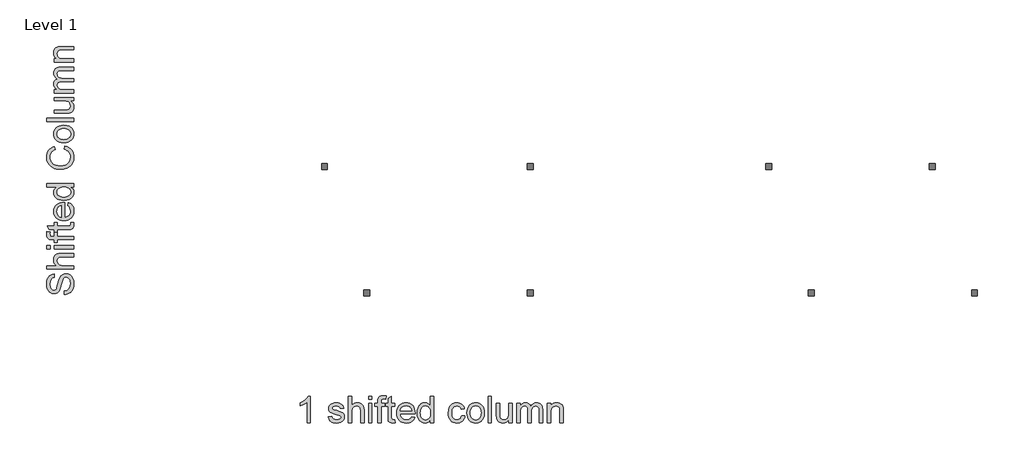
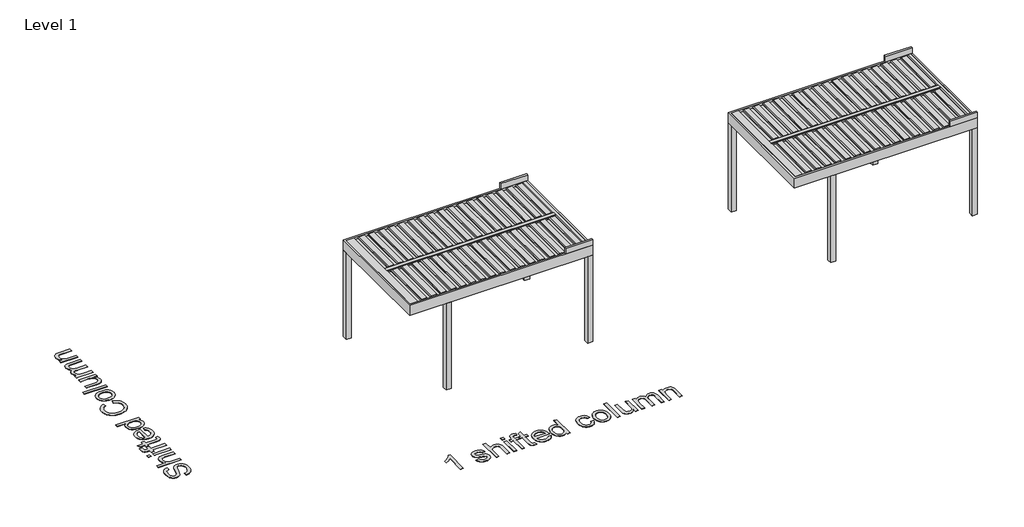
# One storey, part 31 of 47: 4 proxies.
"""IFC4 building model written with IfcOpenShell, lengths in millimetres."""

from ifc_helpers import new_model, si_unit, origin, origin_with_axes, place, context, project, spatial, polyline, outline, extrude, transform, mapped, element, save
from components import generic_models_242e71fc, generic_models_93a3973e

model = new_model("IFC4")

# Units and contexts
model_context = context("Model", 3, world=origin())
ifc_project = project(units=[si_unit("LENGTHUNIT", "METRE", prefix="MILLI")], contexts=[model_context])

# Site, building, storey
site = spatial("IfcSite", under=ifc_project)
building = spatial("IfcBuilding", under=site)
storey = spatial("IfcBuildingStorey", under=building, Name="Level 1", Elevation=0.0)

# Proxies
placement = place(None, origin())
generic_models_shape = generic_models_242e71fc(model_context)
element("IfcBuildingElementProxy", 1, Name="Renson_Algarve_Single Unit With Intermediate Beam : Algarve - Single Unit With Intermediate Beam", ObjectType="Renson_Algarve_Single Unit With Intermediate Beam : Algarve - Single Unit With Intermediate Beam", at=placement, inside=storey, context=model_context, shape_type="MappedRepresentation", body=[
    mapped(generic_models_shape, transform((76532.7944478, 54900.3727543, 0.0), x_axis=(1.0, 0.0, 0.0), y_axis=(0.0, 1.0, 0.0), z_axis=(0.0, 0.0, 1.0))),
])
generic_models_2_shape = generic_models_93a3973e(model_context)
element("IfcBuildingElementProxy", 2, Name="Renson_Algarve_Single Unit With Intermediate Beam : Algarve - Single Unit With Intermediate Beam", ObjectType="Renson_Algarve_Single Unit With Intermediate Beam : Algarve - Single Unit With Intermediate Beam", at=placement, inside=storey, context=model_context, shape_type="MappedRepresentation", body=[
    mapped(generic_models_2_shape, transform((84932.7944478, 54900.3727543, 0.0), x_axis=(1.0, 0.0, 0.0), y_axis=(0.0, 1.0, 0.0), z_axis=(0.0, 0.0, 1.0))),
])
element("IfcBuildingElementProxy", 3, Name="500mm Arial", ObjectType="500mm Arial", at=placement, inside=storey, context=model_context, shape_type="SweptSolid", body=[
    extrude(outline(polyline([(69669.9627665, 53051.4354175), (69669.9627665, 53114.2206113), (69704.8042571, 53121.4249671), (69732.809274, 53134.454121), (69755.0354779, 53154.7796013), (69772.5405295, 53183.8729357), (69783.8988861, 53219.4348619), (69787.685005, 53259.1661174), (69784.8185911, 53294.1455638), (69776.2193494, 53324.7717399), (69762.6077156, 53349.5884461), (69744.7041252, 53367.139483), (69724.1487187, 53377.5781346), (69702.5816367, 53381.0576851), (69681.5663778, 53378.4518544), (69663.4022043, 53370.634362), (69647.9051752, 53354.7541225), (69634.8913496, 53327.9600505), (69610.9177063, 53236.5413747), (69595.0527952, 53176.5306242), (69579.954305, 53138.132941), (69558.8317471, 53106.8782998), (69533.2332916, 53084.728738), (69503.7107615, 53071.5309715), (69470.8159798, 53067.1317159), (69434.0431087, 53072.5733038), (69399.753441, 53088.8980673), (69384.2257552, 53101.034341), (69370.6907634, 53115.6768109), (69349.5988624, 53152.4803388), (69336.7689778, 53196.6568351), (69332.4923496, 53245.5544836), (69336.9682472, 53298.5294909), (69350.39594, 53344.8826223), (69372.4995166, 53382.9584088), (69386.7012944, 53398.2714968), (69403.0030653, 53411.1013814), (69440.0058627, 53428.9130014), (69481.607185, 53435.9947298), (69481.607185, 53373.2095359), (69461.5729447, 53369.0095498), (69444.1445351, 53361.6825667), (69429.3219564, 53351.2285867), (69417.1052085, 53337.6476097), (69407.555605, 53320.6867169), (69400.7344597, 53300.0929894), (69395.2775434, 53248.0070302), (69400.673146, 53194.6947978), (69407.4176493, 53174.3156681), (69416.8599538, 53158.1211961), (69428.2106462, 53145.7818208), (69440.680313, 53136.9679813), (69454.2689542, 53131.6796777), (69468.9765698, 53129.9169098), (69493.1034973, 53134.9139735), (69512.5092726, 53149.9051648), (69521.139171, 53163.6700828), (69529.86104, 53185.3444637), (69547.5806894, 53252.4216142), (69564.4112907, 53321.6447429), (69579.0959137, 53363.5219767), (69601.8739406, 53399.3138292), (69629.9862564, 53424.2838196), (69663.1262928, 53438.9531141), (69700.9874814, 53443.842879), (69739.691733, 53438.2173501), (69776.0967221, 53421.3407636), (69807.4280054, 53393.9028981), (69830.9111394, 53356.5935325), (69845.5804339, 53311.7272575), (69850.4701988, 53261.618664), (69845.1972235, 53200.1057288), (69838.6060045, 53173.430452), (69829.3782977, 53149.4759692), (69817.498775, 53128.0966603), (69802.9521078, 53109.1469055), (69785.7382961, 53092.6267046), (69765.8573399, 53078.5360578), (69743.9530328, 53067.1853654), (69720.6691682, 53058.8850279), (69696.0057461, 53053.6350452), (69669.9627665, 53051.4354175)])), origin_with_axes(), (0.0, 0.0, 1.0), 5.0),
    extrude(outline(polyline([(69842.6220496, 53530.1725205), (69340.3404988, 53530.1725205), (69340.3404988, 53592.9577144), (69525.0172604, 53592.9577144), (69499.1582218, 53616.0193169), (69480.68748, 53641.9166766), (69469.6050349, 53670.6497932), (69465.9108865, 53702.2186669), (69469.94226, 53740.1411693), (69482.0363806, 53772.7293827), (69501.2428865, 53798.3891518), (69526.6114157, 53815.5263215), (69561.4682348, 53825.1832238), (69609.13961, 53828.4021913), (69842.6220496, 53828.4021913), (69842.6220496, 53765.6169974), (69615.6388585, 53765.6169974), (69576.3367987, 53760.6199337), (69561.330279, 53754.373604), (69549.4200994, 53745.6287424), (69540.3533411, 53734.5922825), (69533.8770851, 53721.471158), (69528.6960804, 53688.9749151), (69532.1909593, 53662.4414262), (69542.6755962, 53637.5327495), (69559.1383155, 53616.9007009), (69580.5674417, 53603.1970966), (69609.0476395, 53595.5175599), (69646.6635735, 53592.9577144), (69842.6220496, 53592.9577144), (69842.6220496, 53530.1725205)])), origin_with_axes(), (0.0, 0.0, 1.0), 5.0),
    extrude(outline(polyline([(69842.6220496, 53914.7318328), (69473.7590357, 53914.7318328), (69473.7590357, 53977.5170267), (69842.6220496, 53977.5170267), (69842.6220496, 53914.7318328)])), origin_with_axes(), (0.0, 0.0, 1.0), 5.0),
    extrude(outline(polyline([(69403.1256927, 53914.7318328), (69340.3404988, 53914.7318328), (69340.3404988, 53977.5170267), (69403.1256927, 53977.5170267), (69403.1256927, 53914.7318328)])), origin_with_axes(), (0.0, 0.0, 1.0), 5.0),
    extrude(outline(polyline([(69842.6220496, 54087.3911159), (69536.5442296, 54087.3911159), (69536.5442296, 54032.4540713), (69473.7590357, 54032.4540713), (69473.7590357, 54087.3911159), (69436.6029542, 54087.3911159), (69405.8541508, 54089.0465849), (69384.2410836, 54094.0129918), (69363.3637804, 54106.643607), (69346.8397474, 54126.1413527), (69336.079199, 54153.425934), (69332.4923496, 54189.4170559), (69339.3594802, 54246.6840198), (69398.2205994, 54237.4869699), (69395.2775434, 54201.3119071), (69397.8833742, 54177.4455626), (69405.7008666, 54161.7645926), (69420.6307443, 54153.0733804), (69444.5737308, 54150.1763097), (69473.7590357, 54150.1763097), (69473.7590357, 54220.8096528), (69536.5442296, 54220.8096528), (69536.5442296, 54150.1763097), (69842.6220496, 54150.1763097), (69842.6220496, 54087.3911159)])), origin_with_axes(), (0.0, 0.0, 1.0), 5.0),
    extrude(outline(polyline([(69790.2601789, 54409.1652343), (69844.4614595, 54417.0133836), (69850.4701988, 54370.0471155), (69847.864368, 54339.9114487), (69840.0468756, 54317.4399902), (69827.9987403, 54301.5597507), (69812.7009806, 54291.1977412), (69786.4280748, 54285.4955703), (69741.4545009, 54283.5948466), (69536.5442296, 54283.5948466), (69536.5442296, 54236.5059513), (69473.7590357, 54236.5059513), (69473.7590357, 54283.5948466), (69384.1184563, 54283.5948466), (69347.2076294, 54346.3800405), (69473.7590357, 54346.3800405), (69473.7590357, 54409.1652343), (69536.5442296, 54409.1652343), (69536.5442296, 54346.3800405), (69739.6150909, 54346.3800405), (69771.9887065, 54349.6909784), (69783.454362, 54360.42087), (69787.685005, 54381.8193394), (69790.2601789, 54409.1652343)])), origin_with_axes(), (0.0, 0.0, 1.0), 5.0),
    extrude(outline(polyline([(69732.7479603, 54730.2035888), (69740.5961096, 54791.7625093), (69765.2518675, 54782.3240369), (69786.9798978, 54769.5822907), (69805.7802006, 54753.5372708), (69821.6527758, 54734.1889771), (69834.2603984, 54711.7366791), (69843.2658431, 54686.3796461), (69848.6691099, 54658.1178783), (69850.4701988, 54626.9513755), (69847.3623624, 54587.994205), (69838.038853, 54553.2830059), (69822.4996709, 54522.8177782), (69800.7448158, 54496.5985219), (69773.3797603, 54475.514285), (69741.0099768, 54460.4541158), (69703.6354654, 54451.4180143), (69661.2562259, 54448.4059805), (69617.4399475, 54451.4486712), (69578.8200022, 54460.5767432), (69545.3963901, 54475.7901965), (69517.1691112, 54497.0890312), (69494.7436379, 54523.2393097), (69478.7254427, 54553.0070945), (69469.1145256, 54586.3923855), (69465.9108865, 54623.3951829), (69469.1068613, 54659.2061958), (69478.6947858, 54691.5913077), (69494.67466, 54720.5505185), (69517.0464838, 54746.0838283), (69545.2124491, 54766.9266425), (69578.5747475, 54781.814367), (69617.1333792, 54790.7470017), (69660.888344, 54793.7245466), (69677.8109157, 54793.3566646), (69677.8109157, 54511.1911743), (69702.8652124, 54514.8278411), (69724.8078406, 54522.0590216), (69743.6388002, 54532.8847157), (69759.3580913, 54547.3049235), (69771.751116, 54564.5225673), (69780.6032766, 54583.7405695), (69785.9145729, 54604.95893), (69787.685005, 54628.1776488), (69784.4047238, 54661.5935967), (69774.5638805, 54689.7365693), (69757.5493382, 54712.6065667), (69732.7479603, 54730.2035888)]), holes=[polyline([(69615.0257219, 54511.1911743), (69615.0257219, 54730.9393528), (69581.8550287, 54722.4474101), (69558.12664, 54705.8007498), (69545.2507701, 54688.6789086), (69536.0537203, 54669.1964913), (69530.5354903, 54647.3534978), (69528.6960804, 54623.1499282), (69534.5668639, 54580.8281703), (69541.9053432, 54562.4149101), (69552.1792144, 54545.8333955), (69564.9132964, 54531.9190255), (69579.6324083, 54521.5071986), (69596.3365501, 54514.5979149), (69615.0257219, 54511.1911743)])]), origin_with_axes(), (0.0, 0.0, 1.0), 5.0),
    extrude(outline(polyline([(69842.6220496, 55084.1060682), (69783.3930483, 55084.1060682), (69812.7393017, 55065.3210938), (69833.7009112, 55042.5660595), (69846.2778769, 55015.8409654), (69850.4701988, 54985.1458115), (69844.4001459, 54944.5561647), (69826.1899871, 54907.4000831), (69797.1119811, 54875.9461726), (69758.4383863, 54852.4630385), (69711.7327014, 54837.8397292), (69658.5584247, 54832.9652928), (69606.0432698, 54837.4565188), (69558.6171493, 54850.9301969), (69537.4869272, 54861.0316233), (69518.9778643, 54873.3709986), (69503.0899606, 54887.9483226), (69489.8232162, 54904.7635955), (69471.8889689, 54942.7320831), (69465.9108865, 54984.9005568), (69470.1875147, 55015.6187034), (69483.0173993, 55042.7806574), (69502.6837576, 55065.8039389), (69527.469807, 55084.1060682), (69340.3404988, 55084.1060682), (69340.3404988, 55146.891262), (69842.6220496, 55146.891262), (69842.6220496, 55084.1060682)]), holes=[polyline([(69658.31317, 54895.7504866), (69688.7592372, 54897.5209187), (69715.104953, 54902.832215), (69737.3503174, 54911.6843755), (69755.4953304, 54924.0774003), (69769.578313, 54938.8769864), (69779.6375863, 54954.948831), (69785.6731503, 54972.2929342), (69787.685005, 54990.909296), (69785.7651208, 55009.6137962), (69780.0054683, 55026.8544327), (69770.4060475, 55042.6312053), (69756.9668584, 55056.9441142), (69739.580602, 55068.827469), (69718.1399795, 55077.3155797), (69692.6449908, 55082.408446), (69663.0956359, 55084.1060682), (69630.6990277, 55082.3777892), (69602.9162729, 55077.1929523), (69579.7473714, 55068.5515575), (69561.1923233, 55056.4536049), (69546.975217, 55041.8264634), (69536.8201411, 55025.5975025), (69530.7270955, 55007.7667221), (69528.6960804, 54988.3341221), (69530.6466213, 54969.3498783), (69536.4982443, 54952.0057751), (69546.2509493, 54936.3018124), (69559.9047363, 54922.2379903), (69577.7585094, 54910.6497074), (69600.1111727, 54902.3723625), (69626.9627262, 54897.4059556), (69658.31317, 54895.7504866)])]), origin_with_axes(), (0.0, 0.0, 1.0), 5.0),
    extrude(outline(polyline([(69664.0766546, 55798.2876481), (69680.2634624, 55861.072842), (69719.3087712, 55848.6491604), (69753.4259942, 55832.1021348), (69782.6151312, 55811.4317652), (69806.8761824, 55786.6380516), (69825.9485646, 55758.2804811), (69839.5716947, 55726.9185411), (69847.7455728, 55692.5522313), (69850.4701988, 55655.181552), (69848.4085268, 55616.8949998), (69842.2235107, 55582.3562454), (69831.9151507, 55551.5652888), (69817.4834466, 55524.52213), (69799.1429963, 55500.855055), (69777.1083976, 55480.1923496), (69751.3796506, 55462.5340139), (69721.9567552, 55447.8800477), (69690.1119699, 55436.3722391), (69657.1175535, 55428.1523757), (69622.9735058, 55423.2204577), (69587.6798269, 55421.5764851), (69549.810974, 55423.4350556), (69514.440653, 55429.010767), (69481.5688639, 55438.3036195), (69451.1956067, 55451.313613), (69423.822887, 55467.7495076), (69399.9527105, 55487.3200633), (69379.5850771, 55510.0252802), (69362.7199869, 55535.8651582), (69349.4953956, 55563.9621456), (69340.0492589, 55593.4386905), (69334.3815769, 55624.2947928), (69332.4923496, 55656.5304526), (69334.937232, 55692.4411003), (69342.2718793, 55725.370371), (69354.4962914, 55755.3182647), (69371.6104684, 55782.2847813), (69393.162222, 55805.8253969), (69418.6993638, 55825.4955874), (69448.2218939, 55841.2953526), (69481.7298123, 55853.2246927), (69496.6903468, 55790.4394989), (69472.0001, 55780.5526703), (69450.9043668, 55768.6731475), (69433.4031473, 55754.8009306), (69419.4964415, 55738.9360196), (69408.9006736, 55720.9864439), (69401.3322679, 55700.8602331), (69396.7912246, 55678.5573871), (69395.2775434, 55654.077906), (69396.956005, 55625.9119408), (69401.9913898, 55600.1525369), (69410.3836979, 55576.7996944), (69422.1329291, 55555.8534133), (69436.7102531, 55537.5781088), (69453.5868397, 55522.238196), (69472.7626887, 55509.833675), (69494.2378001, 55500.3645457), (69540.1923927, 55488.3623956), (69587.5571996, 55484.3616789), (69645.5599275, 55489.0981596), (69695.7145062, 55503.3076017), (69717.3697265, 55514.0988069), (69736.1048836, 55527.5264997), (69751.9199772, 55543.5906801), (69764.8150076, 55562.2913482), (69781.9675056, 55603.9693126), (69787.685005, 55648.9275581), (69785.7382961, 55676.2236357), (69779.8981694, 55701.335414), (69770.1646249, 55724.2628929), (69756.5376627, 55745.0060725), (69739.0785963, 55763.0744434), (69717.8487395, 55777.9774963), (69692.8480923, 55789.7152312), (69664.0766546, 55798.2876481)])), origin_with_axes(), (0.0, 0.0, 1.0), 5.0),
    extrude(outline(polyline([(69658.1905427, 55923.8580358), (69610.4195327, 55927.2532801), (69569.2550703, 55937.4390128), (69534.6971554, 55954.415234), (69506.745788, 55978.1819438), (69488.8805186, 56002.1096019), (69476.1196119, 56028.5204634), (69468.4630679, 56057.4145285), (69465.9108865, 56088.791797), (69469.0187229, 56123.4301861), (69478.3422323, 56154.749973), (69493.8814145, 56182.7511578), (69515.6362695, 56207.4337404), (69542.8710335, 56227.5791118), (69574.8499423, 56241.9686627), (69611.5729961, 56250.6023933), (69653.0401947, 56253.4803035), (69716.4691821, 56248.3912692), (69742.5044974, 56242.0299764), (69764.7536939, 56233.1241664), (69783.9716961, 56221.7849703), (69800.9134284, 56208.1235192), (69815.5788908, 56192.1398129), (69827.9680834, 56173.8338515), (69844.84467, 56133.106249), (69850.4701988, 56088.791797), (69847.3738587, 56053.6475701), (69838.0848383, 56022.0365433), (69822.6031377, 55993.9587164), (69800.9287568, 55969.4140895), (69773.4295776, 55949.483316), (69740.4734822, 55935.2470492), (69702.0604706, 55926.7052892), (69658.1905427, 55923.8580358)]), holes=[polyline([(69658.0679153, 55986.6432297), (69688.5216467, 55988.459647), (69714.8903552, 55993.9088991), (69737.1740406, 56002.9909858), (69755.372703, 56015.7059073), (69769.5093351, 56031.1722795), (69779.6069295, 56048.5087185), (69785.6654861, 56067.7152243), (69787.685005, 56088.791797), (69785.6539898, 56109.7610707), (69779.5609442, 56128.8909345), (69769.4058683, 56146.1813882), (69755.1887621, 56161.632432), (69736.8099907, 56174.3473535), (69714.1699196, 56183.4294402), (69687.2685487, 56188.8786923), (69656.105878, 56190.6951096), (69626.6178368, 56188.867196), (69600.9389072, 56183.383455), (69579.069089, 56174.2438867), (69561.0083823, 56161.448491), (69546.8717502, 56145.9399657), (69536.7741558, 56128.6610082), (69530.7155992, 56109.6116186), (69528.6960804, 56088.791797), (69530.707935, 56067.7152243), (69536.743499, 56048.5087185), (69546.8027723, 56031.1722795), (69560.8857549, 56015.7059073), (69579.0307679, 56002.9909858), (69601.2761323, 55993.9088991), (69627.6218481, 55988.459647), (69658.0679153, 55986.6432297)])]), origin_with_axes(), (0.0, 0.0, 1.0), 5.0),
    extrude(outline(polyline([(69842.6220496, 56324.1136466), (69340.3404988, 56324.1136466), (69340.3404988, 56386.8988404), (69842.6220496, 56386.8988404), (69842.6220496, 56324.1136466)])), origin_with_axes(), (0.0, 0.0, 1.0), 5.0),
    extrude(outline(polyline([(69842.6220496, 56716.5211081), (69779.2237191, 56716.5211081), (69810.394054, 56693.8043949), (69832.6585789, 56667.3475481), (69846.0172938, 56637.1505676), (69850.4701988, 56603.2134536), (69847.3432018, 56572.6332627), (69837.962211, 56544.1683933), (69823.8600678, 56520.2867205), (69806.569614, 56503.4561192), (69785.5696835, 56492.1284194), (69760.33911, 56484.7554511), (69701.9685001, 56481.0766312), (69473.7590357, 56481.0766312), (69473.7590357, 56543.861825), (69672.4153131, 56543.861825), (69736.4267803, 56547.6632723), (69757.7792644, 56556.8143369), (69774.0120575, 56572.495307), (69784.2667681, 56593.6638501), (69787.685005, 56619.277634), (69784.190126, 56646.3629459), (69773.7054891, 56671.7008183), (69757.1967846, 56692.59345), (69735.6297026, 56706.3430396), (69706.0918441, 56713.976591), (69665.6708099, 56716.5211081), (69473.7590357, 56716.5211081), (69473.7590357, 56779.3063019), (69842.6220496, 56779.3063019), (69842.6220496, 56716.5211081)])), origin_with_axes(), (0.0, 0.0, 1.0), 5.0),
    extrude(outline(polyline([(69842.6220496, 56865.6359435), (69473.7590357, 56865.6359435), (69473.7590357, 56928.4211373), (69534.4595649, 56928.4211373), (69506.5771754, 56947.3057464), (69484.7341819, 56971.5859581), (69470.6167104, 57000.4340379), (69465.9108865, 57033.0222513), (69470.7086809, 57067.940384), (69485.1020639, 57095.9300724), (69508.1406739, 57116.8380325), (69538.8741489, 57130.51098), (69506.9527216, 57153.3963058), (69484.1517021, 57179.500599), (69470.4710904, 57208.8238597), (69465.9108865, 57241.3660879), (69467.807778, 57266.5008588), (69473.4984527, 57288.5622822), (69482.9829103, 57307.5503581), (69496.2611511, 57323.4650865), (69513.4864591, 57336.0458843), (69534.8121185, 57345.0321684), (69560.2381293, 57350.4239389), (69589.7644916, 57352.2211958), (69842.6220496, 57352.2211958), (69842.6220496, 57289.4360019), (69616.7425045, 57289.4360019), (69585.4265497, 57287.9798023), (69564.3193202, 57283.6112037), (69549.8646235, 57275.4258293), (69538.5062669, 57262.5193026), (69531.148627, 57245.9186276), (69528.6960804, 57226.6508081), (69530.267243, 57208.8583487), (69534.9807311, 57192.6370519), (69542.8365445, 57177.9869179), (69553.8346834, 57164.9079465), (69568.2970443, 57154.1512303), (69586.5455241, 57146.4678615), (69608.5801228, 57141.8578403), (69634.4008403, 57140.3211665), (69842.6220496, 57140.3211665), (69842.6220496, 57077.5359727), (69609.7527466, 57077.5359727), (69574.2521341, 57073.903138), (69548.9295901, 57063.0046339), (69540.0774296, 57054.5778369), (69533.7544578, 57043.8287849), (69528.6960804, 57015.3639155), (69532.068332, 56991.1756743), (69542.1850868, 56968.8881568), (69558.8010903, 56950.494057), (69581.6710877, 56937.9860692), (69613.4009097, 56930.8123703), (69656.5963873, 56928.4211373), (69842.6220496, 56928.4211373), (69842.6220496, 56865.6359435)])), origin_with_axes(), (0.0, 0.0, 1.0), 5.0),
    extrude(outline(polyline([(69842.6220496, 57446.3989865), (69473.7590357, 57446.3989865), (69473.7590357, 57509.1841804), (69525.2625151, 57509.1841804), (69499.2961776, 57530.996517), (69480.7487936, 57557.1927807), (69469.6203633, 57587.7729716), (69465.9108865, 57622.7370895), (69468.8999277, 57653.6851624), (69477.8670514, 57682.0274044), (69491.693283, 57705.6638226), (69509.2596483, 57722.4944239), (69530.5201619, 57733.9140942), (69555.4288387, 57741.3177193), (69616.1293679, 57744.6286573), (69842.6220496, 57744.6286573), (69842.6220496, 57681.8434634), (69624.5906538, 57681.8434634), (69592.1250677, 57680.0347103), (69569.0404725, 57674.6084509), (69552.5011111, 57664.5989949), (69539.6712265, 57649.0406522), (69531.4398669, 57629.0983824), (69528.6960804, 57605.9371451), (69530.2365862, 57586.8724271), (69534.8581038, 57569.164274), (69542.560633, 57552.8126857), (69553.344174, 57537.8176623), (69568.435, 57525.290514), (69589.0593844, 57516.3425508), (69615.2173271, 57510.973773), (69646.9088281, 57509.1841804), (69842.6220496, 57509.1841804), (69842.6220496, 57446.3989865)])), origin_with_axes(), (0.0, 0.0, 1.0), 5.0),
])
element("IfcBuildingElementProxy", 4, Name="500mm Arial", ObjectType="500mm Arial", at=placement, inside=storey, context=model_context, shape_type="SweptSolid", body=[
    extrude(outline(polyline([(74322.2272658, 50625.3727543), (74259.442072, 50625.3727543), (74259.442072, 51016.7991972), (74233.2304798, 50995.5999972), (74199.9678161, 50974.4314541), (74133.8716843, 50942.7322888), (74133.8716843, 51002.0839174), (74183.1832001, 51028.9086462), (74225.9034968, 51060.8224093), (74259.5800277, 51094.7595233), (74281.7602464, 51127.6543051), (74322.2272658, 51127.6543051), (74322.2272658, 50625.3727543)])), origin_with_axes(), (0.0, 0.0, 1.0), 5.0),
    extrude(outline(polyline([(74659.6976827, 50735.2468435), (74722.4828766, 50743.0949928), (74732.3850336, 50716.2396071), (74751.5455542, 50696.4966067), (74780.0870657, 50684.3565009), (74818.1321953, 50680.3097989), (74855.7174725, 50684.0192757), (74882.1436625, 50695.1477061), (74897.7786473, 50711.2732002), (74902.9903089, 50729.9738683), (74897.7479905, 50745.9767351), (74882.0210352, 50758.1781546), (74817.3964313, 50776.081745), (74760.0988106, 50792.6517632), (74722.8507586, 50806.7998916), (74698.9231005, 50822.235607), (74681.5866615, 50842.6683861), (74671.0560393, 50866.7953136), (74667.545832, 50893.3134741), (74670.3662606, 50917.6396711), (74678.8275465, 50940.0958012), (74692.1632688, 50959.7928163), (74709.6070068, 50975.8416684), (74726.9434458, 50985.9430948), (74749.5222032, 50994.4197091), (74775.6264965, 51000.1678653), (74803.5395429, 51002.0839174), (74844.4051012, 50999.0029057), (74879.9363705, 50989.7598705), (74908.5085388, 50975.2591885), (74928.4967939, 50956.4052363), (74941.7405457, 50931.8031279), (74950.0792043, 50900.0579774), (74887.2940104, 50892.2098281), (74879.3692191, 50911.968157), (74863.6882491, 50926.8520493), (74840.0978161, 50936.187055), (74808.4446361, 50939.2987235), (74772.3922006, 50936.3250107), (74748.3572436, 50927.4038723), (74734.8375803, 50914.5280025), (74730.3310258, 50899.6900954), (74732.2010926, 50890.033193), (74737.811293, 50881.4186229), (74747.4068818, 50873.7237579), (74761.2331134, 50867.5617345), (74815.3117667, 50854.1953553), (74907.4662065, 50824.6421684), (74931.8077318, 50810.5093684), (74950.2631453, 50791.1649068), (74961.8974134, 50766.54747), (74965.7755027, 50736.5957442), (74961.222963, 50705.6323429), (74947.565344, 50676.5083516), (74925.3238117, 50651.5077044), (74895.0195323, 50632.9143352), (74858.4152738, 50621.3720376), (74817.273804, 50617.5246051), (74783.4823099, 50619.3793435), (74753.967444, 50624.9435586), (74728.7292063, 50634.2172506), (74707.7675968, 50647.2004193), (74690.6457556, 50663.8317512), (74676.9268228, 50684.0499325), (74666.6107986, 50707.8549633), (74659.6976827, 50735.2468435)])), origin_with_axes(), (0.0, 0.0, 1.0), 5.0),
    extrude(outline(polyline([(75036.4088458, 50625.3727543), (75036.4088458, 51127.6543051), (75099.1940396, 51127.6543051), (75099.1940396, 50942.9775435), (75122.2556422, 50968.836582), (75148.1530018, 50987.3073239), (75176.8861185, 50998.389769), (75208.4549922, 51002.0839174), (75246.3774945, 50998.0525438), (75278.965708, 50985.9584232), (75304.6254771, 50966.7519174), (75321.7626467, 50941.3833882), (75331.4195491, 50906.5265691), (75334.6385166, 50858.8551939), (75334.6385166, 50625.3727543), (75271.8533227, 50625.3727543), (75271.8533227, 50852.3559453), (75266.8562589, 50891.6580051), (75260.6099292, 50906.6645249), (75251.8650676, 50918.5747045), (75240.8286078, 50927.6414628), (75227.7074833, 50934.1177188), (75195.2112404, 50939.2987235), (75168.6777515, 50935.8038446), (75143.7690747, 50925.3192077), (75123.1370262, 50908.8564884), (75109.4334218, 50887.4273622), (75101.7538852, 50858.9471644), (75099.1940396, 50821.3312304), (75099.1940396, 50625.3727543), (75036.4088458, 50625.3727543)])), origin_with_axes(), (0.0, 0.0, 1.0), 5.0),
    extrude(outline(polyline([(75420.9681581, 50625.3727543), (75420.9681581, 50994.2357681), (75483.7533519, 50994.2357681), (75483.7533519, 50625.3727543), (75420.9681581, 50625.3727543)])), origin_with_axes(), (0.0, 0.0, 1.0), 5.0),
    extrude(outline(polyline([(75420.9681581, 51064.8691112), (75420.9681581, 51127.6543051), (75483.7533519, 51127.6543051), (75483.7533519, 51064.8691112), (75420.9681581, 51064.8691112)])), origin_with_axes(), (0.0, 0.0, 1.0), 5.0),
    extrude(outline(polyline([(75593.6274412, 50625.3727543), (75593.6274412, 50931.4505743), (75538.6903965, 50931.4505743), (75538.6903965, 50994.2357681), (75593.6274412, 50994.2357681), (75593.6274412, 51031.3918496), (75595.2829101, 51062.1406531), (75600.2493171, 51083.7537203), (75612.8799322, 51104.6310235), (75632.377678, 51121.1550565), (75659.6622593, 51131.9156048), (75695.6533812, 51135.5024543), (75752.9203451, 51128.6353237), (75743.7232952, 51069.7742045), (75707.5482323, 51072.7172604), (75683.6818879, 51070.1114296), (75668.0009179, 51062.2939372), (75659.3097057, 51047.3640596), (75656.412635, 51023.4210731), (75656.412635, 50994.2357681), (75727.0459781, 50994.2357681), (75727.0459781, 50931.4505743), (75656.412635, 50931.4505743), (75656.412635, 50625.3727543), (75593.6274412, 50625.3727543)])), origin_with_axes(), (0.0, 0.0, 1.0), 5.0),
    extrude(outline(polyline([(75915.4015596, 50677.7346249), (75923.2497088, 50623.5333443), (75876.2834408, 50617.5246051), (75846.147774, 50620.1304359), (75823.6763155, 50627.9479283), (75807.796076, 50639.9960636), (75797.4340665, 50655.2938232), (75791.7318956, 50681.5667291), (75789.8311719, 50726.540303), (75789.8311719, 50931.4505743), (75742.7422765, 50931.4505743), (75742.7422765, 50994.2357681), (75789.8311719, 50994.2357681), (75789.8311719, 51083.8763476), (75852.6163658, 51120.7871745), (75852.6163658, 50994.2357681), (75915.4015596, 50994.2357681), (75915.4015596, 50931.4505743), (75852.6163658, 50931.4505743), (75852.6163658, 50728.379713), (75855.9273037, 50696.0060974), (75866.6571952, 50684.5404419), (75888.0556646, 50680.3097989), (75915.4015596, 50677.7346249)])), origin_with_axes(), (0.0, 0.0, 1.0), 5.0),
    extrude(outline(polyline([(76236.4399141, 50735.2468435), (76297.9988346, 50727.3986943), (76288.5603622, 50702.7429364), (76275.818616, 50681.0149061), (76259.773596, 50662.2146033), (76240.4253023, 50646.342028), (76217.9730043, 50633.7344055), (76192.6159714, 50624.7289608), (76164.3542035, 50619.325694), (76133.1877008, 50617.5246051), (76094.2305303, 50620.6324415), (76059.5193312, 50629.9559508), (76029.0541035, 50645.495133), (76002.8348471, 50667.2499881), (75981.7506103, 50694.6150436), (75966.6904411, 50726.9848271), (75957.6543396, 50764.3593385), (75954.6423058, 50806.7385779), (75957.6849964, 50850.5548564), (75966.8130684, 50889.1748017), (75982.0265218, 50922.5984138), (76003.3253565, 50950.8256927), (76029.4756349, 50973.251166), (76059.2434197, 50989.2693612), (76092.6287108, 50998.8802783), (76129.6315081, 51002.0839174), (76165.4425211, 50998.8879425), (76197.827633, 50989.300018), (76226.7868438, 50973.3201439), (76252.3201535, 50950.94832), (76273.1629678, 50922.7823548), (76288.0506923, 50889.4200563), (76296.983327, 50850.8614247), (76299.9608719, 50807.1064599), (76299.5929899, 50790.1838881), (76017.4274996, 50790.1838881), (76021.0641664, 50765.1295914), (76028.2953469, 50743.1869633), (76039.121041, 50724.3560036), (76053.5412488, 50708.6367125), (76070.7588926, 50696.2436878), (76089.9768947, 50687.3915273), (76111.1952552, 50682.080231), (76134.4139741, 50680.3097989), (76167.829922, 50683.59008), (76195.9728946, 50693.4309234), (76218.842892, 50710.4454657), (76236.4399141, 50735.2468435)]), holes=[polyline([(76017.4274996, 50852.969082), (76237.1756781, 50852.969082), (76228.6837353, 50886.1397752), (76212.0370751, 50909.8681639), (76194.9152339, 50922.7440337), (76175.4328165, 50931.9410836), (76153.5898231, 50937.4593135), (76129.3862535, 50939.2987235), (76087.0644956, 50933.42794), (76068.6512353, 50926.0894606), (76052.0697208, 50915.8155895), (76038.1553508, 50903.0815075), (76027.7435239, 50888.3623956), (76020.8342402, 50871.6582538), (76017.4274996, 50852.969082)])]), origin_with_axes(), (0.0, 0.0, 1.0), 5.0),
    extrude(outline(polyline([(76590.3423934, 50625.3727543), (76590.3423934, 50684.6017555), (76571.557419, 50655.2555022), (76548.8023848, 50634.2938927), (76522.0772907, 50621.716927), (76491.3821367, 50617.5246051), (76450.7924899, 50623.594658), (76413.6364084, 50641.8048168), (76382.1824978, 50670.8828228), (76358.6993638, 50709.5564175), (76344.0760545, 50756.2621025), (76339.2016181, 50809.4363792), (76343.6928441, 50861.951534), (76357.1665222, 50909.3776546), (76367.2679486, 50930.5078767), (76379.6073239, 50949.0169396), (76394.1846479, 50964.9048432), (76410.9999208, 50978.1715877), (76448.9684084, 50996.1058349), (76491.1368821, 51002.0839174), (76521.8550287, 50997.8072892), (76549.0169826, 50984.9774046), (76572.0402642, 50965.3110463), (76590.3423934, 50940.5249968), (76590.3423934, 51127.6543051), (76653.1275873, 51127.6543051), (76653.1275873, 50625.3727543), (76590.3423934, 50625.3727543)]), holes=[polyline([(76401.9868119, 50809.6816339), (76403.757244, 50779.2355667), (76409.0685403, 50752.8898509), (76417.9207008, 50730.6444865), (76430.3137255, 50712.4994735), (76445.1133116, 50698.4164909), (76461.1851563, 50688.3572176), (76478.5292595, 50682.3216536), (76497.1456213, 50680.3097989), (76515.8501215, 50682.2296831), (76533.0907579, 50687.9893356), (76548.8675306, 50697.5887564), (76563.1804394, 50711.0279455), (76575.0637943, 50728.4142019), (76583.5519049, 50749.8548244), (76588.6447713, 50775.3498131), (76590.3423934, 50804.8991679), (76588.6141145, 50837.2957761), (76583.4292776, 50865.078531), (76574.7878828, 50888.2474325), (76562.6899301, 50906.8024806), (76548.0627887, 50921.0195869), (76531.8338278, 50931.1746628), (76514.0030473, 50937.2677083), (76494.5704473, 50939.2987235), (76475.5862036, 50937.3481825), (76458.2421003, 50931.4965595), (76442.5381377, 50921.7438546), (76428.4743155, 50908.0900676), (76416.8860327, 50890.2362945), (76408.6086878, 50867.8836312), (76403.6422809, 50841.0320777), (76401.9868119, 50809.6816339)])]), origin_with_axes(), (0.0, 0.0, 1.0), 5.0),
    extrude(outline(polyline([(77178.9535857, 50758.7912912), (77241.7387796, 50750.943142), (77234.90997, 50721.3171451), (77224.2337279, 50695.1017208), (77209.7100533, 50672.2968692), (77191.3389462, 50652.9025903), (77169.8944916, 50637.4247217), (77146.1507745, 50626.3691014), (77120.1077949, 50619.7357291), (77091.7655529, 50617.5246051), (77056.5523481, 50620.6094489), (77024.9796423, 50629.8639803), (76997.0474354, 50645.2881994), (76972.7557274, 50666.8821061), (76953.0932012, 50694.2394974), (76939.0485396, 50726.9541702), (76930.6217427, 50765.0261246), (76927.8128103, 50808.4553606), (76932.6106047, 50864.3274386), (76947.0039878, 50912.7499062), (76957.8565066, 50933.7000194), (76971.2228858, 50951.8526966), (76987.1031252, 50967.2079378), (77005.497225, 50979.765743), (77046.500739, 50996.5043738), (77090.9071615, 51002.0839174), (77118.7627264, 51000.1678653), (77143.9588109, 50994.4197091), (77166.4954152, 50984.8394488), (77186.3725393, 50971.4270844), (77203.2529579, 50954.4891842), (77216.799446, 50934.3323166), (77227.0120034, 50910.9564815), (77233.8906303, 50884.3616789), (77171.1054365, 50876.5135297), (77159.716423, 50903.9054099), (77141.9814452, 50923.5411114), (77118.8815216, 50935.3593205), (77091.3976709, 50939.2987235), (77070.0643472, 50937.3596788), (77050.8233525, 50931.5425448), (77033.6746866, 50921.8473214), (77018.6183495, 50908.2740086), (77006.3594484, 50890.5083739), (76997.6030905, 50868.2361848), (76992.3492758, 50841.4574412), (76990.5980042, 50810.1721432), (76992.3109547, 50778.4154964), (76997.4498063, 50751.3263524), (77006.014559, 50728.9047112), (77018.0052128, 50711.1505728), (77032.7626458, 50697.6577343), (77049.627736, 50688.0199924), (77068.6004835, 50682.2373473), (77089.6808882, 50680.3097989), (77122.1924595, 50685.1229217), (77148.8485758, 50699.56229), (77159.6282847, 50710.4837867), (77168.2390226, 50723.9957858), (77178.9535857, 50758.7912912)])), origin_with_axes(), (0.0, 0.0, 1.0), 5.0),
    extrude(outline(polyline([(77280.9795257, 50809.8042612), (77284.37477, 50857.5752711), (77294.5605027, 50898.7397336), (77311.5367239, 50933.2976485), (77335.3034337, 50961.2490159), (77359.2310918, 50979.1142853), (77385.6419533, 50991.875192), (77414.5360184, 50999.531736), (77445.9132869, 51002.0839174), (77480.551676, 50998.9760809), (77511.8714629, 50989.6525716), (77539.8726477, 50974.1133894), (77564.5552303, 50952.3585343), (77584.7006017, 50925.1237704), (77599.0901526, 50893.1448615), (77607.7238832, 50856.4218078), (77610.6017934, 50814.9546092), (77605.5127591, 50751.5256218), (77599.1514663, 50725.4903064), (77590.2456563, 50703.2411099), (77578.9064602, 50684.0231078), (77565.2450091, 50667.0813755), (77549.2613028, 50652.4159131), (77530.9553414, 50640.0267204), (77490.2277389, 50623.1501339), (77445.9132869, 50617.5246051), (77410.76906, 50620.6209452), (77379.1580332, 50629.9099656), (77351.0802063, 50645.3916662), (77326.5355794, 50667.0660471), (77306.6048059, 50694.5652262), (77292.3685391, 50727.5213216), (77283.8267791, 50765.9343333), (77280.9795257, 50809.8042612)]), holes=[polyline([(77343.7647195, 50809.9268885), (77345.5811369, 50779.4731571), (77351.030389, 50753.1044487), (77360.1124757, 50730.8207633), (77372.8273972, 50712.6221008), (77388.2937694, 50698.4854687), (77405.6302084, 50688.3878744), (77424.8367142, 50682.3293178), (77445.9132869, 50680.3097989), (77466.8825606, 50682.3408141), (77486.0124244, 50688.4338596), (77503.3028781, 50698.5889356), (77518.7539219, 50712.8060418), (77531.4688434, 50731.1848132), (77540.5509301, 50753.8248843), (77546.0001822, 50780.7262552), (77547.8165995, 50811.8889259), (77545.9886859, 50841.376967), (77540.5049449, 50867.0558967), (77531.3653766, 50888.9257149), (77518.5699809, 50906.9864216), (77503.0614556, 50921.1230537), (77485.7824981, 50931.220648), (77466.7331085, 50937.2792047), (77445.9132869, 50939.2987235), (77424.8367142, 50937.2868689), (77405.6302084, 50931.2513049), (77388.2937694, 50921.1920316), (77372.8273972, 50907.1090489), (77360.1124757, 50888.964036), (77351.030389, 50866.7186716), (77345.5811369, 50840.3729558), (77343.7647195, 50809.9268885)])]), origin_with_axes(), (0.0, 0.0, 1.0), 5.0),
    extrude(outline(polyline([(77681.2351365, 50625.3727543), (77681.2351365, 51127.6543051), (77744.0203303, 51127.6543051), (77744.0203303, 50625.3727543), (77681.2351365, 50625.3727543)])), origin_with_axes(), (0.0, 0.0, 1.0), 5.0),
    extrude(outline(polyline([(78073.642598, 50625.3727543), (78073.642598, 50688.7710848), (78050.9258848, 50657.6007499), (78024.469038, 50635.336225), (77994.2720575, 50621.9775101), (77960.3349435, 50617.5246051), (77929.7547526, 50620.651602), (77901.2898832, 50630.0325929), (77877.4082104, 50644.1347361), (77860.5776091, 50661.4251898), (77849.2499093, 50682.4251204), (77841.876941, 50707.6556939), (77838.1981211, 50766.0263038), (77838.1981211, 50994.2357681), (77900.9833149, 50994.2357681), (77900.9833149, 50795.5794907), (77904.7847622, 50731.5680236), (77913.9358268, 50710.2155394), (77929.6167969, 50693.9827464), (77950.78534, 50683.7280358), (77976.3991239, 50680.3097989), (78003.4844358, 50683.8046779), (78028.8223082, 50694.2893147), (78049.7149399, 50710.7980193), (78063.4645294, 50732.3651012), (78071.0980808, 50761.9029598), (78073.642598, 50802.323994), (78073.642598, 50994.2357681), (78136.4277918, 50994.2357681), (78136.4277918, 50625.3727543), (78073.642598, 50625.3727543)])), origin_with_axes(), (0.0, 0.0, 1.0), 5.0),
    extrude(outline(polyline([(78222.7574334, 50625.3727543), (78222.7574334, 50994.2357681), (78285.5426272, 50994.2357681), (78285.5426272, 50933.5352389), (78304.4272363, 50961.4176285), (78328.707448, 50983.2606219), (78357.5555278, 50997.3780935), (78390.1437412, 51002.0839174), (78425.0618739, 50997.286123), (78453.0515623, 50982.8927399), (78473.9595224, 50959.85413), (78487.6324699, 50929.120655), (78510.5177957, 50961.0420823), (78536.6220889, 50983.8431018), (78565.9453496, 50997.5237135), (78598.4875778, 51002.0839174), (78623.6223487, 51000.1870258), (78645.6837721, 50994.4963512), (78664.671848, 50985.0118935), (78680.5865764, 50971.7336528), (78693.1673742, 50954.5083448), (78702.1536583, 50933.1826853), (78707.5454288, 50907.7566745), (78709.3426856, 50878.2303123), (78709.3426856, 50625.3727543), (78646.5574918, 50625.3727543), (78646.5574918, 50851.2522993), (78645.1012922, 50882.5682542), (78640.7326935, 50903.6754837), (78632.5473192, 50918.1301804), (78619.6407925, 50929.488537), (78603.0401175, 50936.8461769), (78583.772298, 50939.2987235), (78565.9798385, 50937.7275608), (78549.7585418, 50933.0140728), (78535.1084078, 50925.1582593), (78522.0294364, 50914.1601205), (78511.2727202, 50899.6977596), (78503.5893514, 50881.4492798), (78498.9793302, 50859.4146811), (78497.4426564, 50833.5939636), (78497.4426564, 50625.3727543), (78434.6574626, 50625.3727543), (78434.6574626, 50858.2420572), (78431.0246279, 50893.7426698), (78420.1261238, 50919.0652138), (78411.6993268, 50927.9173743), (78400.9502748, 50934.2403461), (78372.4854054, 50939.2987235), (78348.2971642, 50935.9264719), (78326.0096467, 50925.809717), (78307.6155469, 50909.1937136), (78295.1075591, 50886.3237162), (78287.9338602, 50854.5938941), (78285.5426272, 50811.3984165), (78285.5426272, 50625.3727543), (78222.7574334, 50625.3727543)])), origin_with_axes(), (0.0, 0.0, 1.0), 5.0),
    extrude(outline(polyline([(78803.5204764, 50625.3727543), (78803.5204764, 50994.2357681), (78866.3056703, 50994.2357681), (78866.3056703, 50942.7322888), (78888.1180069, 50968.6986263), (78914.3142706, 50987.2460102), (78944.8944615, 50998.3744406), (78979.8585794, 51002.0839174), (79010.8066523, 50999.0948762), (79039.1488943, 50990.1277525), (79062.7853125, 50976.3015209), (79079.6159138, 50958.7351556), (79091.0355841, 50937.474642), (79098.4392092, 50912.5659652), (79101.7501472, 50851.865436), (79101.7501472, 50625.3727543), (79038.9649533, 50625.3727543), (79038.9649533, 50843.4041501), (79037.1562002, 50875.8697362), (79031.7299408, 50898.9543314), (79021.7204848, 50915.4936927), (79006.1621421, 50928.3235773), (78986.2198723, 50936.554937), (78963.058635, 50939.2987235), (78943.993917, 50937.7582177), (78926.2857639, 50933.1367001), (78909.9341756, 50925.4341708), (78894.9391522, 50914.6506298), (78882.4120039, 50899.5598038), (78873.4640407, 50878.9354195), (78868.0952629, 50852.7774768), (78866.3056703, 50821.0859757), (78866.3056703, 50625.3727543), (78803.5204764, 50625.3727543)])), origin_with_axes(), (0.0, 0.0, 1.0), 5.0),
])

save(model, "model.ifc")
